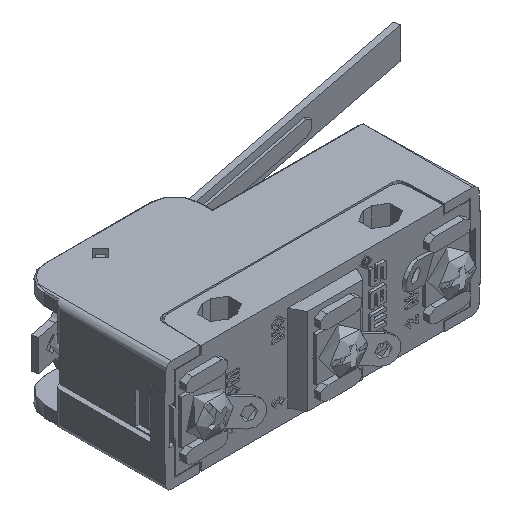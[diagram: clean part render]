
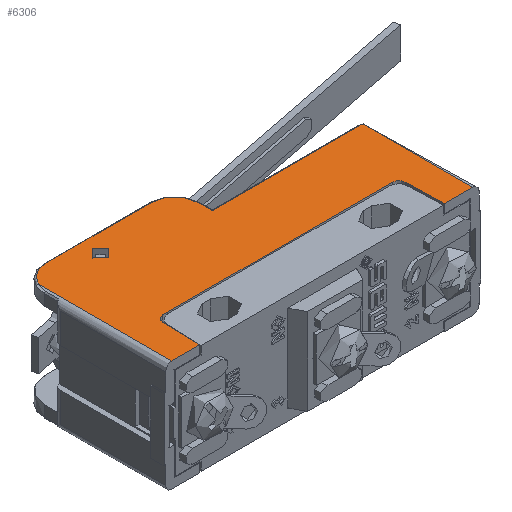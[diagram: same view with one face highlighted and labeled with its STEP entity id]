
A CAD part, isometric view. The second image highlights one B-rep face of the part: STEP entity #6306.
In plain terms, the highlighted planar face has unit normal (0, 0, 1).
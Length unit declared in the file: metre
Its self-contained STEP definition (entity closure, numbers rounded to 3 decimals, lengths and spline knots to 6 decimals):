
#5645=CARTESIAN_POINT('',(-0.011767,0.013867,0.05815));
#5646=DIRECTION('',(0.,0.,1.));
#5647=DIRECTION('',(1.,0.,0.));
#5648=AXIS2_PLACEMENT_3D('',#5645,#5646,#5647);
#5649=CIRCLE('',#5648,0.0013);
#5650=CARTESIAN_POINT('',(-0.013067,0.013867,0.05815));
#5651=VERTEX_POINT('',#5650);
#5652=EDGE_CURVE('',#5651,#5651,#5649,.T.);
#5679=CARTESIAN_POINT('',(0.022323,-0.000607,0.05815));
#5680=VERTEX_POINT('',#5679);
#5683=CARTESIAN_POINT('',(0.021323,-0.000633,0.05815));
#5684=DIRECTION('',(0.,0.,1.));
#5685=DIRECTION('',(1.,0.,0.));
#5686=AXIS2_PLACEMENT_3D('',#5683,#5684,#5685);
#5687=CIRCLE('',#5686,0.001);
#5688=CARTESIAN_POINT('',(0.021323,0.000367,0.05815));
#5689=VERTEX_POINT('',#5688);
#5690=EDGE_CURVE('',#5680,#5689,#5687,.T.);
#5724=CARTESIAN_POINT('',(-0.015357,0.000367,0.05815));
#5725=DIRECTION('',(-1.,0.,0.));
#5726=VECTOR('',#5725,1.);
#5727=LINE('',#5724,#5726);
#5728=CARTESIAN_POINT('',(-0.015357,0.000367,0.05815));
#5729=VERTEX_POINT('',#5728);
#5730=EDGE_CURVE('',#5689,#5729,#5727,.T.);
#5763=CARTESIAN_POINT('',(-0.015357,-0.000633,0.05815));
#5764=DIRECTION('',(0.,0.,1.));
#5765=DIRECTION('',(1.,0.,0.));
#5766=AXIS2_PLACEMENT_3D('',#5763,#5764,#5765);
#5767=CIRCLE('',#5766,0.001);
#5768=CARTESIAN_POINT('',(-0.016356,-0.000607,0.05815));
#5769=VERTEX_POINT('',#5768);
#5770=EDGE_CURVE('',#5729,#5769,#5767,.T.);
#5804=CARTESIAN_POINT('',(-0.016517,-0.006733,0.05815));
#5805=DIRECTION('',(-0.026,-1.,0.));
#5806=VECTOR('',#5805,1.);
#5807=LINE('',#5804,#5806);
#5808=CARTESIAN_POINT('',(-0.016517,-0.006733,0.05815));
#5809=VERTEX_POINT('',#5808);
#5810=EDGE_CURVE('',#5769,#5809,#5807,.T.);
#5969=CARTESIAN_POINT('',(-0.020992,-0.006733,0.05815));
#5970=VERTEX_POINT('',#5969);
#5973=CARTESIAN_POINT('',(-0.020992,0.011067,0.05815));
#5974=DIRECTION('',(0.,-1.,0.));
#5975=VECTOR('',#5974,1.);
#5976=LINE('',#5973,#5975);
#5977=CARTESIAN_POINT('',(-0.020992,0.014524,0.05815));
#5978=VERTEX_POINT('',#5977);
#5979=EDGE_CURVE('',#5978,#5970,#5976,.T.);
#6051=CARTESIAN_POINT('',(-0.017537,0.016817,0.05815));
#6052=VERTEX_POINT('',#6051);
#6073=CARTESIAN_POINT('',(-0.017537,0.013067,0.05815));
#6074=DIRECTION('',(0.,0.,-1.));
#6075=DIRECTION('',(-1.,0.,0.));
#6076=AXIS2_PLACEMENT_3D('',#6073,#6074,#6075);
#6077=CIRCLE('',#6076,0.00375);
#6078=EDGE_CURVE('',#5978,#6052,#6077,.T.);
#6101=CARTESIAN_POINT('',(0.026508,0.010817,0.05815));
#6102=VERTEX_POINT('',#6101);
#6120=CARTESIAN_POINT('',(0.003009,0.010817,0.05815));
#6121=VERTEX_POINT('',#6120);
#6124=CARTESIAN_POINT('',(0.003259,0.010817,0.05815));
#6125=DIRECTION('',(1.,0.,0.));
#6126=VECTOR('',#6125,1.);
#6127=LINE('',#6124,#6126);
#6128=EDGE_CURVE('',#6121,#6102,#6127,.T.);
#6160=CARTESIAN_POINT('',(0.003009,0.013067,0.05815));
#6161=VERTEX_POINT('',#6160);
#6164=CARTESIAN_POINT('',(0.003009,0.013067,0.05815));
#6165=DIRECTION('',(0.,1.,0.));
#6166=VECTOR('',#6165,1.);
#6167=LINE('',#6164,#6166);
#6168=EDGE_CURVE('',#6121,#6161,#6167,.T.);
#6201=CARTESIAN_POINT('',(-0.000741,0.016817,0.05815));
#6202=VERTEX_POINT('',#6201);
#6205=CARTESIAN_POINT('',(-0.000741,0.013067,0.05815));
#6206=DIRECTION('',(0.,0.,-1.));
#6207=DIRECTION('',(-1.,0.,0.));
#6208=AXIS2_PLACEMENT_3D('',#6205,#6206,#6207);
#6209=CIRCLE('',#6208,0.00375);
#6210=EDGE_CURVE('',#6202,#6161,#6209,.T.);
#6236=CARTESIAN_POINT('',(-0.017537,0.016817,0.05815));
#6237=DIRECTION('',(-1.,0.,0.));
#6238=VECTOR('',#6237,1.);
#6239=LINE('',#6236,#6238);
#6240=EDGE_CURVE('',#6202,#6052,#6239,.T.);
#6253=CARTESIAN_POINT('',(-0.021992,0.011067,0.05815));
#6254=DIRECTION('',(0.,0.,-1.));
#6255=DIRECTION('',(-1.,0.,0.));
#6256=AXIS2_PLACEMENT_3D('',#6253,#6254,#6255);
#6257=PLANE('',#6256);
#6258=ORIENTED_EDGE('',*,*,#6240,.T.);
#6259=ORIENTED_EDGE('',*,*,#6078,.F.);
#6260=ORIENTED_EDGE('',*,*,#5979,.T.);
#6261=CARTESIAN_POINT('',(-0.021992,-0.006733,0.05815));
#6262=DIRECTION('',(1.,0.,0.));
#6263=VECTOR('',#6262,1.);
#6264=LINE('',#6261,#6263);
#6265=EDGE_CURVE('',#5970,#5809,#6264,.T.);
#6266=ORIENTED_EDGE('',*,*,#6265,.T.);
#6267=ORIENTED_EDGE('',*,*,#5810,.F.);
#6268=ORIENTED_EDGE('',*,*,#5770,.F.);
#6269=ORIENTED_EDGE('',*,*,#5730,.F.);
#6270=ORIENTED_EDGE('',*,*,#5690,.F.);
#6271=CARTESIAN_POINT('',(0.022483,-0.006733,0.05815));
#6272=DIRECTION('',(-0.026,1.,0.));
#6273=VECTOR('',#6272,1.);
#6274=LINE('',#6271,#6273);
#6275=CARTESIAN_POINT('',(0.022483,-0.006733,0.05815));
#6276=VERTEX_POINT('',#6275);
#6277=EDGE_CURVE('',#6276,#5680,#6274,.T.);
#6278=ORIENTED_EDGE('',*,*,#6277,.F.);
#6279=CARTESIAN_POINT('',(0.027008,-0.006733,0.05815));
#6280=VERTEX_POINT('',#6279);
#6281=EDGE_CURVE('',#6276,#6280,#6264,.T.);
#6282=ORIENTED_EDGE('',*,*,#6281,.T.);
#6283=CARTESIAN_POINT('',(0.027008,0.011067,0.05815));
#6284=DIRECTION('',(0.,-1.,0.));
#6285=VECTOR('',#6284,1.);
#6286=LINE('',#6283,#6285);
#6287=CARTESIAN_POINT('',(0.027008,0.010713,0.05815));
#6288=VERTEX_POINT('',#6287);
#6289=EDGE_CURVE('',#6288,#6280,#6286,.T.);
#6290=ORIENTED_EDGE('',*,*,#6289,.F.);
#6291=CARTESIAN_POINT('',(0.026508,0.009567,0.05815));
#6292=DIRECTION('',(0.,0.,-1.));
#6293=DIRECTION('',(-1.,0.,0.));
#6294=AXIS2_PLACEMENT_3D('',#6291,#6292,#6293);
#6295=CIRCLE('',#6294,0.00125);
#6296=EDGE_CURVE('',#6102,#6288,#6295,.T.);
#6297=ORIENTED_EDGE('',*,*,#6296,.F.);
#6298=ORIENTED_EDGE('',*,*,#6128,.F.);
#6299=ORIENTED_EDGE('',*,*,#6168,.T.);
#6300=ORIENTED_EDGE('',*,*,#6210,.F.);
#6301=EDGE_LOOP('',(#6258,#6259,#6260,#6266,#6267,#6268,#6269,#6270,#6278,#6282,#6290,#6297,#6298,#6299,#6300));
#6302=FACE_BOUND('',#6301,.T.);
#6303=ORIENTED_EDGE('',*,*,#5652,.F.);
#6304=EDGE_LOOP('',(#6303));
#6305=FACE_BOUND('',#6304,.T.);
#6306=ADVANCED_FACE('',(#6302,#6305),#6257,.F.);
